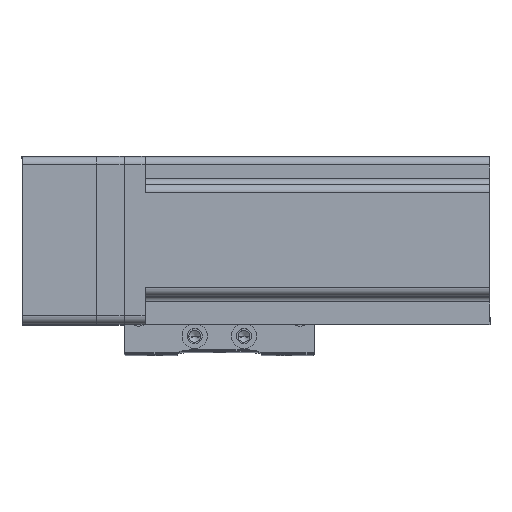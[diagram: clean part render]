
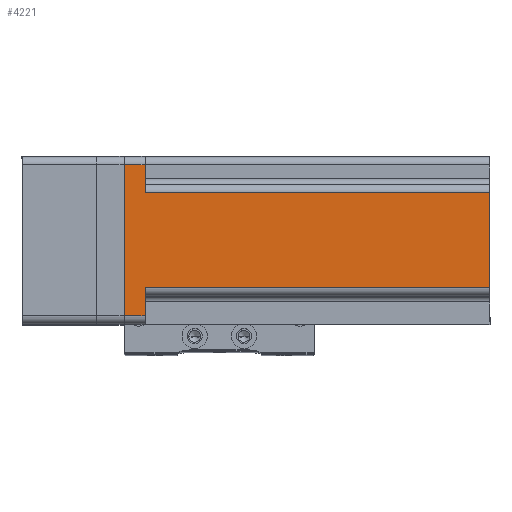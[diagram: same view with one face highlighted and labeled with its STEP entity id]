
A CAD part, top view. The second image highlights one B-rep face of the part: STEP entity #4221.
In plain terms, the highlighted planar face has unit normal (0, 0, 1) as drawn and (0, 1, 0) by its records, which use the part's own axes.
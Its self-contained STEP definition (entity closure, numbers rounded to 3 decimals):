
#178 = DIRECTION ( 'NONE',  ( -1., 0., 0. ) ) ;
#316 = LINE ( 'NONE', #3130, #9276 ) ;
#1283 = LINE ( 'NONE', #25281, #30798 ) ;
#1698 = DIRECTION ( 'NONE',  ( 0., 0., -1. ) ) ;
#1756 = VERTEX_POINT ( 'NONE', #32247 ) ;
#2046 = ORIENTED_EDGE ( 'NONE', *, *, #43155, .F. ) ;
#2622 = EDGE_CURVE ( 'NONE', #1756, #27705, #26344, .T. ) ;
#2674 = DIRECTION ( 'NONE',  ( 0., 0., 1. ) ) ;
#2847 = CARTESIAN_POINT ( 'NONE',  ( 20., 30., 7.5 ) ) ;
#3130 = CARTESIAN_POINT ( 'NONE',  ( -20., 30., 7.5 ) ) ;
#3737 = LINE ( 'NONE', #13467, #38567 ) ;
#4221 = ADVANCED_FACE ( 'NONE', ( #19807 ), #32420, .F. ) ;
#4737 = EDGE_CURVE ( 'NONE', #17567, #29245, #1283, .T. ) ;
#5777 = CARTESIAN_POINT ( 'NONE',  ( 30., 30., 130.7 ) ) ;
#5790 = CARTESIAN_POINT ( 'NONE',  ( -27., 30., 130.7 ) ) ;
#6475 = ORIENTED_EDGE ( 'NONE', *, *, #37323, .T. ) ;
#8558 = CARTESIAN_POINT ( 'NONE',  ( -27., 30., 7.5 ) ) ;
#9129 = DIRECTION ( 'NONE',  ( 1., 0., 0. ) ) ;
#9276 = VECTOR ( 'NONE', #23313, 1000. ) ;
#10539 = EDGE_CURVE ( 'NONE', #24379, #37874, #316, .T. ) ;
#10951 = LINE ( 'NONE', #5790, #18850 ) ;
#11810 = CARTESIAN_POINT ( 'NONE',  ( -17., 30., 130.7 ) ) ;
#13467 = CARTESIAN_POINT ( 'NONE',  ( 27., 30., 130.7 ) ) ;
#15069 = ORIENTED_EDGE ( 'NONE', *, *, #4737, .T. ) ;
#15901 = CARTESIAN_POINT ( 'NONE',  ( 17., 30., 130.7 ) ) ;
#16054 = EDGE_CURVE ( 'NONE', #38474, #1756, #3737, .T. ) ;
#16425 = VERTEX_POINT ( 'NONE', #11810 ) ;
#17567 = VERTEX_POINT ( 'NONE', #15901 ) ;
#18850 = VECTOR ( 'NONE', #42929, 1000. ) ;
#19285 = ORIENTED_EDGE ( 'NONE', *, *, #10539, .T. ) ;
#19807 = FACE_OUTER_BOUND ( 'NONE', #41183, .T. ) ;
#23313 = DIRECTION ( 'NONE',  ( 1., 0., 0. ) ) ;
#24251 = VECTOR ( 'NONE', #178, 1000. ) ;
#24379 = VERTEX_POINT ( 'NONE', #8558 ) ;
#25281 = CARTESIAN_POINT ( 'NONE',  ( 17., 30., 130.7 ) ) ;
#26128 = LINE ( 'NONE', #40185, #43063 ) ;
#26194 = CARTESIAN_POINT ( 'NONE',  ( -17., 30., 7.5 ) ) ;
#26344 = LINE ( 'NONE', #26959, #24251 ) ;
#26959 = CARTESIAN_POINT ( 'NONE',  ( 30., 30., 0. ) ) ;
#27228 = EDGE_CURVE ( 'NONE', #37874, #16425, #43348, .T. ) ;
#27705 = VERTEX_POINT ( 'NONE', #41452 ) ;
#28360 = AXIS2_PLACEMENT_3D ( 'NONE', #5777, #29308, #9129 ) ;
#28585 = VECTOR ( 'NONE', #33201, 1000. ) ;
#29245 = VERTEX_POINT ( 'NONE', #37443 ) ;
#29308 = DIRECTION ( 'NONE',  ( 0., -1., 0. ) ) ;
#29938 = ORIENTED_EDGE ( 'NONE', *, *, #16054, .T. ) ;
#30684 = EDGE_CURVE ( 'NONE', #17567, #16425, #26128, .T. ) ;
#30798 = VECTOR ( 'NONE', #1698, 1000. ) ;
#32247 = CARTESIAN_POINT ( 'NONE',  ( 27., 30., 0. ) ) ;
#32420 = PLANE ( 'NONE',  #28360 ) ;
#33201 = DIRECTION ( 'NONE',  ( -1., 0., 0. ) ) ;
#33627 = DIRECTION ( 'NONE',  ( 0., 0., -1. ) ) ;
#33863 = ORIENTED_EDGE ( 'NONE', *, *, #2622, .T. ) ;
#34317 = VECTOR ( 'NONE', #2674, 1000. ) ;
#34974 = ORIENTED_EDGE ( 'NONE', *, *, #27228, .T. ) ;
#36274 = CARTESIAN_POINT ( 'NONE',  ( -17., 30., 130.7 ) ) ;
#36463 = CARTESIAN_POINT ( 'NONE',  ( 27., 30., 7.5 ) ) ;
#37323 = EDGE_CURVE ( 'NONE', #27705, #24379, #10951, .T. ) ;
#37443 = CARTESIAN_POINT ( 'NONE',  ( 17., 30., 7.5 ) ) ;
#37618 = LINE ( 'NONE', #2847, #28585 ) ;
#37874 = VERTEX_POINT ( 'NONE', #26194 ) ;
#38474 = VERTEX_POINT ( 'NONE', #36463 ) ;
#38567 = VECTOR ( 'NONE', #33627, 1000. ) ;
#40185 = CARTESIAN_POINT ( 'NONE',  ( 30., 30., 130.7 ) ) ;
#40457 = ORIENTED_EDGE ( 'NONE', *, *, #30684, .F. ) ;
#41183 = EDGE_LOOP ( 'NONE', ( #19285, #34974, #40457, #15069, #2046, #29938, #33863, #6475 ) ) ;
#41452 = CARTESIAN_POINT ( 'NONE',  ( -27., 30., 0. ) ) ;
#42929 = DIRECTION ( 'NONE',  ( 0., 0., 1. ) ) ;
#43063 = VECTOR ( 'NONE', #43546, 1000. ) ;
#43155 = EDGE_CURVE ( 'NONE', #38474, #29245, #37618, .T. ) ;
#43348 = LINE ( 'NONE', #36274, #34317 ) ;
#43546 = DIRECTION ( 'NONE',  ( -1., 0., 0. ) ) ;
